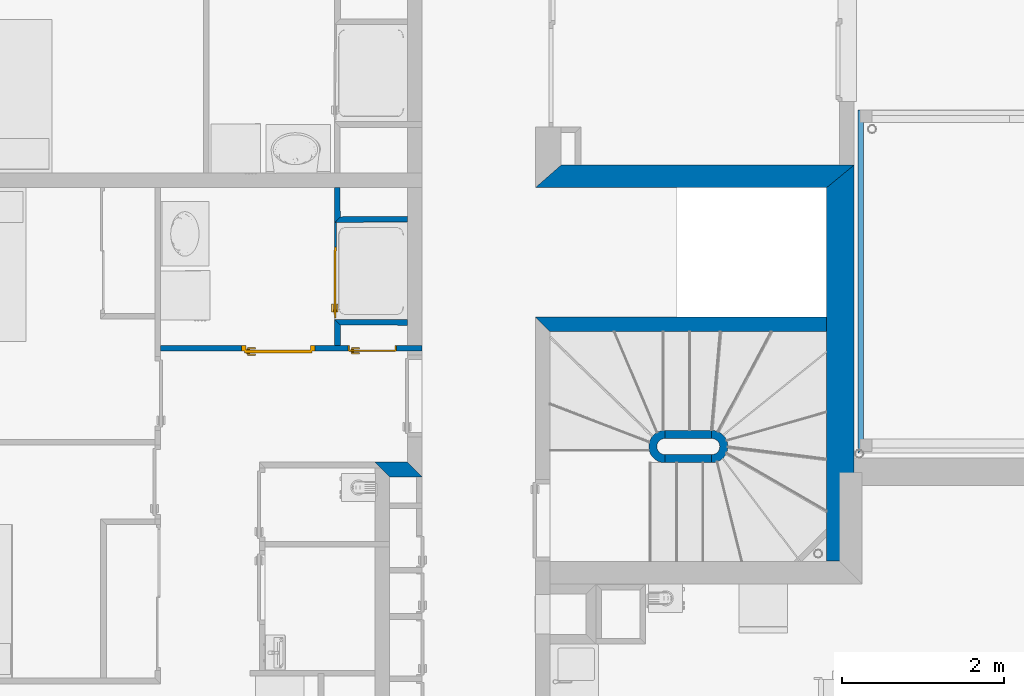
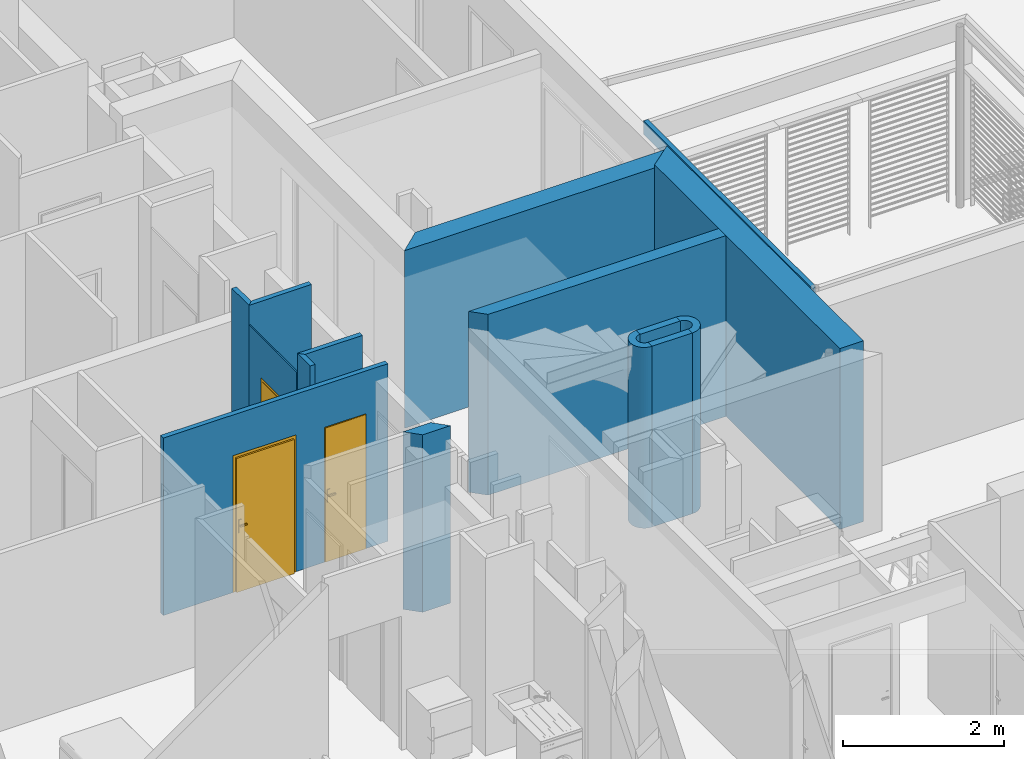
# One storey, part 50 of 171: 15 walls, 3 doors, 3 openings.
"""IFC2X3 building model written with IfcOpenShell, lengths in millimetres."""

from ifc_helpers import new_model, entity, si_unit, converted_unit, derived_unit, money_unit, point, direction, frame, frame_2d, origin_with_axes, origin_2d_with_axis, place, context, subcontext, project, spatial, polyline, circle_curve, parameter, trimmed, segment, composite_curve, rectangle, outline, extrude, faceted_brep, source, transform, mapped, material, layer, layer_set, layer_usage, type_object, element, fill, save


model = new_model("IFC2X3")

# Units and contexts
model_context = context("Model", 3, precision=0.01, world=origin_with_axes(), true_north=direction((0.0, 1.0)))
body_context = subcontext(model_context, "Body", "Model", "MODEL_VIEW")
ifc_project = project(units=[si_unit("LENGTHUNIT", "METRE", prefix="MILLI"), si_unit("AREAUNIT", "SQUARE_METRE"), si_unit("VOLUMEUNIT", "CUBIC_METRE"), converted_unit("PLANEANGLEUNIT", "DEGREE", entity("IfcPlaneAngleMeasure", 0.0174532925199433), si_unit("PLANEANGLEUNIT", "RADIAN"), dimensions=[0, 0, 0, 0, 0, 0, 0]), money_unit("USD"), converted_unit("TIMEUNIT", "Year", entity("IfcTimeMeasure", 31557600.0), si_unit("TIMEUNIT", "SECOND"), dimensions=[0, 0, 1, 0, 0, 0, 0]), si_unit("MASSUNIT", "GRAM", prefix="KILO"), si_unit("THERMODYNAMICTEMPERATUREUNIT", "DEGREE_CELSIUS"), si_unit("LUMINOUSINTENSITYUNIT", "LUMEN"), si_unit("ENERGYUNIT", "JOULE", prefix="MEGA"), derived_unit("THERMALCONDUCTANCEUNIT", [(si_unit("POWERUNIT", "WATT"), 1), (si_unit("LENGTHUNIT", "METRE"), -1), (si_unit("THERMODYNAMICTEMPERATUREUNIT", "KELVIN"), -1)]), derived_unit("SPECIFICHEATCAPACITYUNIT", [(si_unit("ENERGYUNIT", "JOULE"), 1), (si_unit("MASSUNIT", "GRAM", prefix="KILO"), -1), (si_unit("THERMODYNAMICTEMPERATUREUNIT", "KELVIN"), -1)]), derived_unit("MASSDENSITYUNIT", [(si_unit("MASSUNIT", "GRAM", prefix="KILO"), 1), (si_unit("VOLUMEUNIT", "CUBIC_METRE"), -1)])], contexts=[model_context])

# Site, building, storey
site_placement = place(None, origin_with_axes())
site = spatial("IfcSite", under=ifc_project, at=site_placement, Name="Site", CompositionType="ELEMENT")
building_placement = place(site_placement, origin_with_axes())
building = spatial("IfcBuilding", under=site, at=building_placement, Name="Bâtiment", CompositionType="ELEMENT")
storey_placement = place(building_placement, frame((0.0, 0.0, 3000.0), z_axis=(0.0, 0.0, 1.0), x_axis=(1.0, 0.0, 0.0)))
storey = spatial("IfcBuildingStorey", under=building, at=storey_placement, Name="rdc", CompositionType="ELEMENT", Elevation=3000.0)

# Walls
ifc_material_1 = material(Name="Parpaing 314940890")
ifc_layer_1 = layer(ifc_material_1, 180.0, ventilated="UNKNOWN")
ifc_layer_set_1 = layer_set([ifc_layer_1], Name="Beton  18 0018356637")
ifc_layer_usage_1 = layer_usage(ifc_layer_set_1, "AXIS2", "POSITIVE", 0.0)
wall_type_1 = type_object("IfcWallType", Name="Beton  18 0018356637 180", PredefinedType="NOTDEFINED")
wall_1_placement = place(storey_placement, frame((2225712.318356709, -634393.514679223, 0.0), z_axis=(0.0, 0.0, 1.0), x_axis=(1.0, 0.0, 0.0)))
element("IfcWallStandardCase", 1, at=wall_1_placement, inside=storey, type_object=wall_type_1, material=ifc_layer_usage_1, Name="Mur-143", context=body_context, shape_type="SweptSolid", body=[
    extrude(outline(polyline([(179.99999999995, 0.0), (3601.157680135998, 0.0), (3601.157680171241, 180.0000000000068), (1.13686837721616e-10, 180.0000000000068), (179.99999999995, 0.0)])), origin_with_axes(), (0.0, 0.0, 1.0), 2750.0),
])
ifc_layer_usage_2 = layer_usage(ifc_layer_set_1, "AXIS2", "POSITIVE", 0.0)
wall_2_placement = place(storey_placement, frame((2224312.399066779, -636007.2995732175, 0.0), z_axis=(0.0, 0.0, 1.0), x_axis=(-0.9999999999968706, 2.501772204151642e-06, 0.0)))
element("IfcWallStandardCase", 2, at=wall_2_placement, inside=storey, type_object=wall_type_1, material=ifc_layer_usage_2, Name="Mur-142", context=body_context, shape_type="SweptSolid", body=[
    extrude(outline(polyline([(180.0000000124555, 0.0), (579.9989459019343, 0.0), (399.9984955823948, 180.0000000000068), (-0.002122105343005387, 180.0000000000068), (180.0000000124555, 0.0)])), origin_with_axes(), (0.0, 0.0, 1.0), 2700.0),
])
ifc_material_2 = material(Name="Hachure solide 268963992")
ifc_layer_2 = layer(ifc_material_2, 70.0, ventilated="UNKNOWN")
ifc_layer_set_2 = layer_set([ifc_layer_2], Name="Cloison 70 0826278243")
ifc_layer_usage_3 = layer_usage(ifc_layer_set_2, "AXIS2", "NEGATIVE", 70.0)
wall_type_2 = type_object("IfcWallType", Name="Cloison 70 0826278243 70", PredefinedType="NOTDEFINED")
wall_3_placement = place(storey_placement, frame((2224312.389542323, -634244.1075177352, 0.0), z_axis=(0.0, 0.0, 1.0), x_axis=(-0.9999998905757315, 0.0004678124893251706, 0.0)))
element("IfcWallStandardCase", 3, at=wall_3_placement, inside=storey, type_object=wall_type_2, material=ifc_layer_usage_3, Name="Mur-149", context=body_context, shape_type="SweptSolid", body=[
    extrude(outline(polyline([(180.006872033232, 0.0), (1079.999976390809, 0.0), (1009.967238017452, 69.99999999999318), (179.9734750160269, 69.99999999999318), (180.006872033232, 0.0)])), origin_with_axes(), (0.0, 0.0, 1.0), 3000.0),
])
ifc_layer_usage_4 = layer_usage(ifc_layer_set_2, "AXIS2", "POSITIVE", -70.0)
wall_4_placement = place(storey_placement, frame((2224312.371927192, -633035.200347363, 0.0), z_axis=(0.0, 0.0, 1.0), x_axis=(-0.9999697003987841, -0.00778448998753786, 0.0)))
element("IfcWallStandardCase", 4, at=wall_4_placement, inside=storey, type_object=wall_type_2, material=ifc_layer_usage_4, Name="Mur-150", context=body_context, shape_type="SweptSolid", body=[
    extrude(outline(polyline([(179.4616248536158, -69.99999999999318), (1009.404670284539, -69.99999999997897), (1079.341352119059, 0.0), (180.0059054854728, 0.0), (179.4616248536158, -69.99999999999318)])), origin_with_axes(), (0.0, 0.0, 1.0), 3000.0),
])

# Wall, openings, doors
ifc_layer_usage_5 = layer_usage(ifc_layer_set_2, "AXIS2", "NEGATIVE", 70.0)
wall_5_placement = place(storey_placement, frame((2221010.881708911, -634634.1074761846, 0.0), z_axis=(0.0, 0.0, 1.0), x_axis=(1.0, 0.0, 0.0)))
wall_5 = element("IfcWallStandardCase", 5, at=wall_5_placement, inside=storey, type_object=wall_type_2, material=ifc_layer_usage_5, Name="Mur-150", context=body_context, shape_type="SweptSolid", body=[
    extrude(outline(polyline([(69.9996077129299, 0.0), (3301.51735785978, 0.0), (3301.51735785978, 69.99999999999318), (69.99962570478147, 69.99999999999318), (69.9996077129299, 0.0)])), origin_with_axes(), (0.0, 0.0, 1.0), 2700.0),
])
opening_1_placement = place(wall_5_placement, frame((1525.17434022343, 0.0, 0.0), z_axis=(0.0, 0.0, 1.0), x_axis=(1.0, 0.0, 0.0)))
opening_1 = element("IfcOpeningElement", 6, at=opening_1_placement, cuts=wall_5, Name="Por-277", context=body_context, shape_type="SweptSolid", body=[
    extrude(rectangle(XDim=909.9999999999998, YDim=2080.0, at=origin_2d_with_axis()), frame((0.0, 69.99999999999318, 1040.0), z_axis=(0.0, 1.0, 0.0), x_axis=(1.0, 0.0, 0.0)), (0.0, 0.0, -1.0), 140.0),
])
opening_2_placement = place(wall_5_placement, frame((2686.279846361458, 0.0, 0.0), z_axis=(0.0, 0.0, 1.0), x_axis=(1.0, 0.0, 0.0)))
opening_2 = element("IfcOpeningElement", 7, at=opening_2_placement, cuts=wall_5, Name="Por-274", context=body_context, shape_type="SweptSolid", body=[
    extrude(rectangle(XDim=599.9999999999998, YDim=2050.0, at=origin_2d_with_axis()), frame((0.0, 69.99999999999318, 1025.0), z_axis=(0.0, 1.0, 0.0), x_axis=(1.0, 0.0, 0.0)), (0.0, 0.0, -1.0), 140.0),
])
door_style = type_object("IfcDoorStyle", Name="Porte_1v", ConstructionType="NOTDEFINED", OperationType="NOTDEFINED", ParameterTakesPrecedence=False, Sizeable=False)
shared_shape_1 = source(origin_with_axes(), body_context, "Body", "Brep", [
    faceted_brep([(-300.0, 0.0, 0.0), (-300.0, 0.0, 2050.0), (300.0, 0.0, 2050.0), (300.0, 0.0, 0.0), (290.0, 0.0, 0.0), (290.0, 0.0, 2040.0), (-290.0, 0.0, 2040.0), (-290.0, 0.0, 0.0), (-300.0, -70.0, 0.0), (-300.0, -70.0, 2050.0), (300.0, -70.0, 2050.0), (300.0, -70.0, 0.0), (279.9999999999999, -70.0, 0.0), (279.9999999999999, -15.0, 0.0), (290.0, -15.0, 0.0), (290.0, -15.0, 2040.0), (-290.0, -15.0, 2040.0), (-290.0, -15.0, 0.0), (-279.9999999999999, -15.0, 0.0), (-279.9999999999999, -70.0, 0.0), (-279.9999999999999, -70.0, 2030.0), (279.9999999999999, -70.0, 2030.0), (279.9999999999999, -15.0, 2030.0), (-279.9999999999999, -15.0, 2030.0)], [[[0, 1, 2, 3, 4, 5, 6, 7]], [[8, 9, 1, 0]], [[9, 10, 2, 1]], [[10, 11, 3, 2]], [[3, 11, 12, 13, 14, 4]], [[5, 4, 14, 15]], [[6, 5, 15, 16]], [[7, 6, 16, 17]], [[0, 7, 17, 18, 19, 8]], [[19, 20, 21, 12, 11, 10, 9, 8]], [[22, 13, 12, 21]], [[17, 16, 15, 14, 13, 22, 23, 18]], [[18, 23, 20, 19]], [[23, 22, 21, 20]]]),
    faceted_brep([(224.9999999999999, -15.0, 900.0), (224.9999999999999, -15.0, 1100.0), (264.9999999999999, -15.0, 1100.0), (264.9999999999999, -15.0, 900.0), (224.9999999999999, -25.0, 900.0), (224.9999999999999, -25.0, 1100.0), (264.9999999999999, -25.0, 1100.0), (264.9999999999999, -25.0, 900.0)], [[[0, 1, 2, 3]], [[0, 4, 5, 1]], [[1, 5, 6, 2]], [[2, 6, 7, 3]], [[3, 7, 4, 0]], [[7, 6, 5, 4]]]),
    faceted_brep([(154.9999999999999, -25.0, 1000.0), (154.9999999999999, -25.0, 1020.0), (254.9999999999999, -25.0, 1020.0), (254.9999999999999, -25.0, 1000.0), (154.9999999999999, -45.0, 1000.0), (154.9999999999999, -45.0, 1020.0), (254.9999999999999, -45.0, 1020.0), (254.9999999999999, -45.0, 1000.0)], [[[0, 1, 2, 3]], [[0, 4, 5, 1]], [[1, 5, 6, 2]], [[2, 6, 7, 3]], [[3, 7, 4, 0]], [[7, 6, 5, 4]]]),
    faceted_brep([(224.9999999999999, 15.0, 900.0), (224.9999999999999, 15.0, 1100.0), (264.9999999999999, 15.0, 1100.0), (264.9999999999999, 15.0, 900.0), (224.9999999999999, 5.000000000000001, 900.0), (224.9999999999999, 5.000000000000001, 1100.0), (264.9999999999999, 5.000000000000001, 1100.0), (264.9999999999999, 5.000000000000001, 900.0)], [[[0, 1, 2, 3]], [[0, 4, 5, 1]], [[1, 5, 6, 2]], [[2, 6, 7, 3]], [[3, 7, 4, 0]], [[7, 6, 5, 4]]]),
    faceted_brep([(154.9999999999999, 35.0, 1000.0), (154.9999999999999, 35.0, 1020.0), (254.9999999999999, 35.0, 1020.0), (254.9999999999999, 35.0, 1000.0), (154.9999999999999, 15.0, 1000.0), (154.9999999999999, 15.0, 1020.0), (254.9999999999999, 15.0, 1020.0), (254.9999999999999, 15.0, 1000.0)], [[[0, 1, 2, 3]], [[0, 4, 5, 1]], [[1, 5, 6, 2]], [[2, 6, 7, 3]], [[3, 7, 4, 0]], [[7, 6, 5, 4]]]),
    faceted_brep([(290.0, 5.000000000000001, 0.0), (290.0, -15.0, 0.0), (-290.0, -15.0, 0.0), (-290.0, 5.000000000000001, 0.0), (290.0, 5.000000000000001, 2040.0), (290.0, -15.0, 2040.0), (-290.0, -15.0, 2040.0), (-290.0, 5.000000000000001, 2040.0)], [[[0, 1, 2, 3]], [[4, 5, 1, 0]], [[1, 5, 6, 2]], [[3, 2, 6, 7]], [[0, 3, 7, 4]], [[7, 6, 5, 4]]]),
])
door_1_placement = place(opening_2_placement, frame((290.000000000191, 0.0, 0.0), z_axis=(0.0, 0.0, 1.0), x_axis=(-1.0, 0.0, 0.0)))
door_1 = element("IfcDoor", 8, at=door_1_placement, inside=storey, type_object=door_style, Name="Por-274", OverallHeight=2040.0, OverallWidth=580.0, context=body_context, shape_type="MappedRepresentation", body=[
    mapped(shared_shape_1, transform((289.9999999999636, 0.0, 0.0))),
])
fill(opening_2, door_1)
shared_shape_2 = source(origin_with_axes(), body_context, "Body", "Brep", [
    faceted_brep([(-454.9999999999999, 0.0, 0.0), (-454.9999999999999, 0.0, 2080.0), (454.9999999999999, 0.0, 2080.0), (454.9999999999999, 0.0, 0.0), (414.9999999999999, 0.0, 0.0), (414.9999999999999, 0.0, 2040.0), (-414.9999999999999, 0.0, 2040.0), (-414.9999999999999, 0.0, 0.0), (-454.9999999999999, -69.99999999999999, 0.0), (-454.9999999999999, -69.99999999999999, 2080.0), (454.9999999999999, -69.99999999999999, 2080.0), (454.9999999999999, -69.99999999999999, 0.0), (399.9999999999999, -69.99999999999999, 0.0), (399.9999999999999, -15.0, 0.0), (414.9999999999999, -15.0, 0.0), (414.9999999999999, -15.0, 2040.0), (-414.9999999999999, -14.99999999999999, 2040.0), (-414.9999999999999, -14.99999999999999, 0.0), (-399.9999999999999, -14.99999999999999, 0.0), (-399.9999999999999, -69.99999999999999, 0.0), (-399.9999999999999, -69.99999999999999, 2025.0), (399.9999999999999, -69.99999999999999, 2025.0), (399.9999999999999, -15.0, 2025.0), (-399.9999999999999, -14.99999999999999, 2025.0)], [[[0, 1, 2, 3, 4, 5, 6, 7]], [[8, 9, 1, 0]], [[9, 10, 2, 1]], [[10, 11, 3, 2]], [[3, 11, 12, 13, 14, 4]], [[5, 4, 14, 15]], [[6, 5, 15, 16]], [[7, 6, 16, 17]], [[0, 7, 17, 18, 19, 8]], [[19, 20, 21, 12, 11, 10, 9, 8]], [[22, 13, 12, 21]], [[17, 16, 15, 14, 13, 22, 23, 18]], [[18, 23, 20, 19]], [[23, 22, 21, 20]]]),
    faceted_brep([(350.0, -15.0, 900.0), (350.0, -15.0, 1100.0), (389.9999999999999, -15.0, 1100.0), (389.9999999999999, -15.0, 900.0), (350.0, -25.0, 900.0), (350.0, -25.0, 1100.0), (389.9999999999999, -25.0, 1100.0), (389.9999999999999, -25.0, 900.0)], [[[0, 1, 2, 3]], [[0, 4, 5, 1]], [[1, 5, 6, 2]], [[2, 6, 7, 3]], [[3, 7, 4, 0]], [[7, 6, 5, 4]]]),
    faceted_brep([(279.9999999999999, -25.0, 1000.0), (279.9999999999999, -25.0, 1020.0), (379.9999999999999, -25.0, 1020.0), (379.9999999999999, -25.0, 1000.0), (279.9999999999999, -45.0, 1000.0), (279.9999999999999, -45.0, 1020.0), (379.9999999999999, -45.0, 1020.0), (379.9999999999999, -45.0, 1000.0)], [[[0, 1, 2, 3]], [[0, 4, 5, 1]], [[1, 5, 6, 2]], [[2, 6, 7, 3]], [[3, 7, 4, 0]], [[7, 6, 5, 4]]]),
    faceted_brep([(350.0, 34.99999999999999, 900.0), (350.0, 34.99999999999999, 1100.0), (389.9999999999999, 34.99999999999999, 1100.0), (389.9999999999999, 34.99999999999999, 900.0), (350.0, 24.99999999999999, 900.0), (350.0, 24.99999999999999, 1100.0), (389.9999999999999, 24.99999999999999, 1100.0), (389.9999999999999, 24.99999999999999, 900.0)], [[[0, 1, 2, 3]], [[0, 4, 5, 1]], [[1, 5, 6, 2]], [[2, 6, 7, 3]], [[3, 7, 4, 0]], [[7, 6, 5, 4]]]),
    faceted_brep([(279.9999999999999, 54.99999999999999, 1000.0), (279.9999999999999, 54.99999999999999, 1020.0), (379.9999999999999, 54.99999999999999, 1020.0), (379.9999999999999, 54.99999999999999, 1000.0), (279.9999999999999, 34.99999999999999, 1000.0), (279.9999999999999, 34.99999999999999, 1020.0), (379.9999999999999, 34.99999999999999, 1020.0), (379.9999999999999, 34.99999999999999, 1000.0)], [[[0, 1, 2, 3]], [[0, 4, 5, 1]], [[1, 5, 6, 2]], [[2, 6, 7, 3]], [[3, 7, 4, 0]], [[7, 6, 5, 4]]]),
    faceted_brep([(414.9999999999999, 24.99999999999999, 0.0), (414.9999999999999, -15.0, 0.0), (-414.9999999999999, -14.99999999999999, 0.0), (-414.9999999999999, 25.0, 0.0), (414.9999999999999, 24.99999999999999, 2040.0), (414.9999999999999, -15.0, 2040.0), (-414.9999999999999, -14.99999999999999, 2040.0), (-414.9999999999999, 25.0, 2040.0)], [[[0, 1, 2, 3]], [[4, 5, 1, 0]], [[1, 5, 6, 2]], [[3, 2, 6, 7]], [[0, 3, 7, 4]], [[7, 6, 5, 4]]]),
])
door_2_placement = place(opening_1_placement, frame((414.9999999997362, 0.0, 0.0), z_axis=(0.0, 0.0, 1.0), x_axis=(-1.0, 0.0, 0.0)))
door_2 = element("IfcDoor", 9, at=door_2_placement, inside=storey, type_object=door_style, Name="Por-277", OverallHeight=2040.0, OverallWidth=830.0, context=body_context, shape_type="MappedRepresentation", body=[
    mapped(shared_shape_2, transform((414.9999999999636, 0.0, 0.0))),
])
fill(opening_1, door_2)

# Walls
ifc_layer_usage_6 = layer_usage(ifc_layer_set_2, "AXIS2", "POSITIVE", -70.0)
wall_6_placement = place(storey_placement, frame((2223233.063278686, -633043.6024693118, 0.0), z_axis=(0.0, 0.0, 1.0), x_axis=(-0.008689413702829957, 0.9999622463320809, 0.0)))
element("IfcWallStandardCase", 10, at=wall_6_placement, inside=storey, type_object=wall_type_2, material=ifc_layer_usage_6, Name="Mur-150", context=body_context, shape_type="SweptSolid", body=[
    extrude(outline(polyline([(69.9366818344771, -70.00000000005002), (429.4896240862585, -69.99999999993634), (430.0974829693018, 0.0), (0.0, 0.0), (69.9366818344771, -70.00000000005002)])), origin_with_axes(), (0.0, 0.0, 1.0), 3000.0),
])
ifc_layer_usage_7 = layer_usage(ifc_layer_set_2, "AXIS2", "POSITIVE", -70.0)
wall_7_placement = place(storey_placement, frame((2223232.389593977, -634634.1134804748, 0.0), z_axis=(0.0, 0.0, 1.0), x_axis=(2.308085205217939e-07, 0.9999999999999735, 0.0)))
element("IfcWallStandardCase", 11, at=wall_7_placement, inside=storey, type_object=wall_type_2, material=ifc_layer_usage_7, Name="Mur-149", context=body_context, shape_type="SweptSolid", body=[
    extrude(outline(polyline([(70.0060204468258, -70.00000000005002), (320.4784618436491, -70.00000000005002), (390.5112002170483, 0.0), (70.00600429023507, 0.0), (70.0060204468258, -70.00000000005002)])), origin_with_axes(), (0.0, 0.0, 1.0), 3000.0),
])
ifc_material_3 = material(Name="Brique 1 268964100")
ifc_layer_3 = layer(ifc_material_3, 100.0, ventilated="UNKNOWN")
ifc_layer_set_3 = layer_set([ifc_layer_3], Name="Cloison 100 gaine 0826278243")
ifc_layer_usage_8 = layer_usage(ifc_layer_set_3, "AXIS2", "POSITIVE", 0.0)
wall_type_3 = type_object("IfcWallType", Name="Cloison 100 gaine 0826278243 100", PredefinedType="NOTDEFINED")
wall_8_placement = place(storey_placement, frame((2227315.078686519, -635613.5142766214, 0.0), z_axis=(0.0, 0.0, 1.0), x_axis=(-0.9999999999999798, -2.014265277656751e-07, 0.0)))
element("IfcWallStandardCase", 12, at=wall_8_placement, inside=storey, type_object=wall_type_3, material=ifc_layer_usage_8, Name="Mur-149", context=body_context, shape_type="SweptSolid", body=[
    extrude(outline(composite_curve([segment(trimmed(circle_curve(frame_2d((-2.013416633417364e-05, 199.9146077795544), x_axis=(-3.021403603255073e-07, -0.9999999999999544)), 199.9146077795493), [point((-8.053643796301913e-05, 0.0)), parameter(0.0)], [point((4.026810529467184e-05, 399.8292155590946)), parameter(180.0000115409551)], True, "CARTESIAN"), True, "CONTINUOUS"), segment(polyline([(4.026810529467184e-05, 399.8292155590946), (2.012541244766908e-05, 299.8292155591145)]), True, "CONTINUOUS"), segment(trimmed(circle_curve(frame_2d((-1.006287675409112e-05, 199.9146077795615), x_axis=(-3.02140896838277e-07, -0.9999999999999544)), 99.91460777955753), [point((2.012541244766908e-05, 299.8292155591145)), parameter(180.0000115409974)], [point((-4.025116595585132e-05, 100.0000000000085)), parameter(0.0)], False, "CARTESIAN"), True, "CONTINUOUS"), segment(polyline([(-4.025116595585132e-05, 100.0000000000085), (-8.053643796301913e-05, 0.0)]), True, "CONTINUOUS")], self_intersect=False)), origin_with_axes(), (0.0, 0.0, 1.0), 2750.0),
])
ifc_layer_usage_9 = layer_usage(ifc_layer_set_3, "AXIS2", "POSITIVE", 0.0)
wall_9_placement = place(storey_placement, frame((2227893.561675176, -636013.343608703, 0.0), z_axis=(0.0, 0.0, 1.0), x_axis=(0.9999999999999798, -2.014265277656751e-07, 0.0)))
element("IfcWallStandardCase", 13, at=wall_9_placement, inside=storey, type_object=wall_type_3, material=ifc_layer_usage_9, Name="Mur-149", context=body_context, shape_type="SweptSolid", body=[
    extrude(outline(composite_curve([segment(trimmed(circle_curve(frame_2d((2.013416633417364e-05, 199.9146077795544), x_axis=(1.007126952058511e-07, -0.999999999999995)), 199.9146077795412), [point((4.026810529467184e-05, 0.0)), parameter(0.0)], [point((2.273736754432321e-10, 399.8292155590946)), parameter(179.9999884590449)], True, "CARTESIAN"), True, "CONTINUOUS"), segment(polyline([(2.273736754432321e-10, 399.8292155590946), (1.13686837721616e-10, 299.8292155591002)]), True, "CONTINUOUS"), segment(trimmed(circle_curve(frame_2d((1.00627630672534e-05, 199.9146077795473), x_axis=(1.007124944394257e-07, -0.999999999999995)), 99.91460777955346), [point((1.13686837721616e-10, 299.8292155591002)), parameter(179.9999884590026)], [point((2.012541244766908e-05, 99.99999999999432)), parameter(0.0)], False, "CARTESIAN"), True, "CONTINUOUS"), segment(polyline([(2.012541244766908e-05, 99.99999999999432), (4.026810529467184e-05, 0.0)]), True, "CONTINUOUS")], self_intersect=False)), origin_with_axes(), (0.0, 0.0, 1.0), 2750.0),
])
ifc_layer_usage_10 = layer_usage(ifc_layer_set_3, "AXIS2", "POSITIVE", 0.0)
wall_10_placement = place(storey_placement, frame((2227315.078605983, -636013.3435546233, 0.0), z_axis=(0.0, 0.0, 1.0), x_axis=(0.9999999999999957, -9.348530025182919e-08, 0.0)))
element("IfcWallStandardCase", 14, at=wall_10_placement, inside=storey, type_object=wall_type_3, material=ifc_layer_usage_10, Name="Mur-149", context=body_context, shape_type="SweptSolid", body=[
    extrude(outline(polyline([(0.0001021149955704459, 0.0), (578.4830907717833, 0.0), (578.483090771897, 99.99999999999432), (0.0001021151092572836, 99.99999999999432), (0.0001021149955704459, 0.0)])), origin_with_axes(), (0.0, 0.0, 1.0), 2750.0),
])
ifc_layer_usage_11 = layer_usage(ifc_layer_set_3, "AXIS2", "POSITIVE", 0.0)
wall_11_placement = place(storey_placement, frame((2227893.561755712, -635613.5143931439, 0.0), z_axis=(0.0, 0.0, 1.0), x_axis=(-0.9999999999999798, 2.014278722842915e-07, 0.0)))
element("IfcWallStandardCase", 15, at=wall_11_placement, inside=storey, type_object=wall_type_3, material=ifc_layer_usage_11, Name="Mur-149", context=body_context, shape_type="SweptSolid", body=[
    extrude(outline(polyline([(-2.273736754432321e-10, 0.0), (578.4829886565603, 0.0), (578.4829886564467, 99.99999999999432), (-3.410605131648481e-10, 99.99999999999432), (-2.273736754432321e-10, 0.0)])), origin_with_axes(), (0.0, 0.0, 1.0), 2750.0),
])
ifc_material_4 = material(Name="Parpaing 312445824")
ifc_layer_4 = layer(ifc_material_4, 180.0, ventilated="UNKNOWN")
ifc_material_5 = material(Name="Isolant styromousse 301821074")
ifc_layer_5 = layer(ifc_material_5, 100.0, ventilated="UNKNOWN")
ifc_layer_set_4 = layer_set([ifc_layer_4, ifc_layer_5], Name="isol int 18+10 0018356637")
ifc_layer_usage_12 = layer_usage(ifc_layer_set_4, "AXIS2", "POSITIVE", 0.0)
wall_type_4 = type_object("IfcWallType", Name="isol int 18+10 0018356637 280", PredefinedType="NOTDEFINED")
wall_12_placement = place(storey_placement, frame((2225712.318356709, -632613.5146792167, 0.0), z_axis=(0.0, 0.0, 1.0), x_axis=(1.0, 0.0, 0.0)))
element("IfcWallStandardCase", 16, at=wall_12_placement, inside=storey, type_object=wall_type_4, material=ifc_layer_usage_12, Name="Mur-142", context=body_context, shape_type="SweptSolid", body=[
    extrude(outline(polyline([(1.13686837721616e-10, 0.0), (3601.157680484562, 0.0), (3941.157680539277, 280.0000000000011), (320.00000000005, 280.0000000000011), (1.13686837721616e-10, 0.0)])), origin_with_axes(), (0.0, 0.0, 1.0), 2700.0),
])
ifc_layer_6 = layer(ifc_material_4, 180.0, ventilated="UNKNOWN")
ifc_layer_7 = layer(ifc_material_5, 160.0, ventilated="UNKNOWN")
ifc_layer_set_5 = layer_set([ifc_layer_6, ifc_layer_7], Name="isol int 18+16 0018356637")
ifc_layer_usage_13 = layer_usage(ifc_layer_set_5, "AXIS2", "POSITIVE", 0.0)
wall_type_5 = type_object("IfcWallType", Name="isol int 18+16 0018356637 340", PredefinedType="NOTDEFINED")
wall_13_placement = place(storey_placement, frame((2229653.476036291, -637226.9969240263, 0.0), z_axis=(0.0, 0.0, 1.0), x_axis=(1.956352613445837e-10, 1.0, 0.0)))
element("IfcWallStandardCase", 17, at=wall_13_placement, inside=storey, type_object=wall_type_5, material=ifc_layer_usage_13, Name="Mur-144", context=body_context, shape_type="SweptSolid", body=[
    extrude(outline(polyline([(0.0, 0.0), (4893.482244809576, 0.0), (4613.48224474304, 340.0000000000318), (0.0, 340.0000000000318), (0.0, 0.0)])), origin_with_axes(), (0.0, 0.0, 1.0), 2750.0),
])

# Wall, opening, door
ifc_material_6 = material(Name="Empty Fill 292498448")
ifc_layer_8 = layer(ifc_material_6, 20.0, ventilated="UNKNOWN")
ifc_layer_set_6 = layer_set([ifc_layer_8], Name="mur 2cm")
ifc_layer_usage_14 = layer_usage(ifc_layer_set_6, "AXIS2", "POSITIVE", -20.0)
wall_type_6 = type_object("IfcWallType", Name="mur 2cm 20", PredefinedType="NOTDEFINED")
wall_14_placement = place(storey_placement, frame((2223231.217578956, -634223.7114676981, 0.0), z_axis=(0.0, 0.0, 1.0), x_axis=(0.001564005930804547, 0.9999987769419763, 0.0)))
wall_14 = element("IfcWallStandardCase", 18, at=wall_14_placement, inside=storey, type_object=wall_type_6, material=ifc_layer_usage_14, Name="Mur-148", context=body_context, shape_type="SweptSolid", body=[
    extrude(outline(polyline([(0.0, -20.0000000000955), (1180.297418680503, -19.99999999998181), (1180.110441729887, 0.0), (0.0, 0.0), (0.0, -20.0000000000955)])), origin_with_axes(), (0.0, 0.0, 1.0), 2700.0),
])
opening_3_placement = place(wall_14_placement, frame((440.0000000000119, 0.0, 0.0), z_axis=(0.0, 0.0, 1.0), x_axis=(1.0, 0.0, 0.0)))
opening_3 = element("IfcOpeningElement", 19, at=opening_3_placement, cuts=wall_14, Name="Por-288", context=body_context, shape_type="SweptSolid", body=[
    extrude(rectangle(XDim=880.0000119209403, YDim=2080.0, at=origin_2d_with_axis()), frame((5.960473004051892e-06, -20.0000000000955, 1040.0), z_axis=(0.0, 1.0, 0.0), x_axis=(1.0, 0.0, 0.0)), (0.0, 0.0, 1.0), 40.0),
])
shared_shape_3 = source(origin_with_axes(), body_context, "Body", "Brep", [
    faceted_brep([(440.0, 0.0, 0.0), (400.0, 0.0, 0.0), (400.0, 0.0, 2040.0), (-400.0, 0.0, 2040.0), (-400.0, 0.0, 0.0), (-440.0, 0.0, 0.0), (-440.0, 0.0, 2080.0), (440.0, 0.0, 2080.0), (440.0, -20.0, 0.0), (385.0, -20.0, 0.0), (385.0, -15.0, 0.0), (400.0, -15.0, 0.0), (400.0, -15.0, 2040.0), (-400.0, -15.0, 2040.0), (-400.0, -15.0, 0.0), (-385.0, -15.0, 0.0), (-385.0, -20.0, 0.0), (-440.0, -20.0, 0.0), (-440.0, -20.0, 2080.0), (440.0, -20.0, 2080.0), (-385.0, -20.0, 2025.0), (385.0, -20.0, 2025.0), (385.0, -15.0, 2025.0), (-385.0, -15.0, 2025.0)], [[[0, 1, 2, 3, 4, 5, 6, 7]], [[0, 8, 9, 10, 11, 1]], [[1, 11, 12, 2]], [[2, 12, 13, 3]], [[3, 13, 14, 4]], [[5, 4, 14, 15, 16, 17]], [[18, 6, 5, 17]], [[19, 7, 6, 18]], [[8, 0, 7, 19]], [[9, 8, 19, 18, 17, 16, 20, 21]], [[10, 9, 21, 22]], [[11, 10, 22, 23, 15, 14, 13, 12]], [[23, 20, 16, 15]], [[22, 21, 20, 23]]]),
    faceted_brep([(-335.0, -15.0, 900.0), (-375.0, -15.0, 900.0), (-375.0, -15.0, 1100.0), (-335.0, -15.0, 1100.0), (-335.0, -25.0, 900.0), (-375.0, -25.0, 900.0), (-375.0, -25.0, 1100.0), (-335.0, -25.0, 1100.0)], [[[0, 1, 2, 3]], [[1, 0, 4, 5]], [[2, 1, 5, 6]], [[3, 2, 6, 7]], [[0, 3, 7, 4]], [[5, 4, 7, 6]]]),
    faceted_brep([(-265.0, -25.0, 1000.0), (-365.0, -25.0, 1000.0), (-365.0, -25.0, 1020.0), (-265.0, -25.0, 1020.0), (-265.0, -45.0, 1000.0), (-365.0, -45.0, 1000.0), (-365.0, -45.0, 1020.0), (-265.0, -45.0, 1020.0)], [[[0, 1, 2, 3]], [[1, 0, 4, 5]], [[2, 1, 5, 6]], [[3, 2, 6, 7]], [[0, 3, 7, 4]], [[5, 4, 7, 6]]]),
    faceted_brep([(-335.0, 15.0, 900.0), (-375.0, 15.0, 900.0), (-375.0, 15.0, 1100.0), (-335.0, 15.0, 1100.0), (-335.0, 5.000000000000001, 900.0), (-375.0, 5.000000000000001, 900.0), (-375.0, 5.000000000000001, 1100.0), (-335.0, 5.000000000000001, 1100.0)], [[[0, 1, 2, 3]], [[1, 0, 4, 5]], [[2, 1, 5, 6]], [[3, 2, 6, 7]], [[0, 3, 7, 4]], [[5, 4, 7, 6]]]),
    faceted_brep([(-265.0, 35.0, 1000.0), (-365.0, 35.0, 1000.0), (-365.0, 35.0, 1020.0), (-265.0, 35.0, 1020.0), (-265.0, 15.0, 1000.0), (-365.0, 15.0, 1000.0), (-365.0, 15.0, 1020.0), (-265.0, 15.0, 1020.0)], [[[0, 1, 2, 3]], [[1, 0, 4, 5]], [[2, 1, 5, 6]], [[3, 2, 6, 7]], [[0, 3, 7, 4]], [[5, 4, 7, 6]]]),
    faceted_brep([(-400.0, 5.000000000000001, 0.0), (400.0, 5.000000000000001, 0.0), (400.0, -15.0, 0.0), (-400.0, -15.0, 0.0), (-400.0, 5.000000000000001, 2040.0), (400.0, 5.000000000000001, 2040.0), (400.0, -15.0, 2040.0), (-400.0, -15.0, 2040.0)], [[[0, 1, 2, 3]], [[0, 4, 5, 1]], [[1, 5, 6, 2]], [[3, 2, 6, 7]], [[4, 0, 3, 7]], [[5, 4, 7, 6]]]),
])
door_3_placement = place(opening_3_placement, frame((-399.9999999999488, -1.13686837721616e-10, 0.0), z_axis=(0.0, 0.0, 1.0), x_axis=(1.0, 0.0, 0.0)))
door_3 = element("IfcDoor", 20, at=door_3_placement, inside=storey, type_object=door_style, Name="Por-288", OverallHeight=2040.0, OverallWidth=800.0, context=body_context, shape_type="MappedRepresentation", body=[
    mapped(shared_shape_3, transform((400.0000000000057, 0.0, 0.0))),
])
fill(opening_3, door_3)

# Wall
ifc_material_7 = material(Name="100 % 282141195")
ifc_layer_9 = layer(ifc_material_7, 65.15280164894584, ventilated="UNKNOWN")
ifc_layer_set_7 = layer_set([ifc_layer_9], Name="100 % 282141195 65.1528")
ifc_layer_usage_15 = layer_usage(ifc_layer_set_7, "AXIS2", "NEGATIVE", 0.0)
wall_type_7 = type_object("IfcWallType", Name="100 % 282141195 65", PredefinedType="NOTDEFINED")
wall_15_placement = place(storey_placement, frame((2229703.476035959, -635894.4093631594, 2500.0), z_axis=(0.0, 0.0, 1.0), x_axis=(0.0, 1.0, 0.0)))
element("IfcWallStandardCase", 21, at=wall_15_placement, inside=storey, type_object=wall_type_7, material=ifc_layer_usage_15, Name="Mur-153", context=body_context, shape_type="SweptSolid", body=[
    extrude(outline(polyline([(65.15280164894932, -65.15280164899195), (4239.1701684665, -65.15280164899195), (4239.1701684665, 0.0), (0.0, 0.0), (65.15280164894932, -65.15280164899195)])), origin_with_axes(), (0.0, 0.0, 1.0), 200.0),
])

save(model, "model.ifc")
